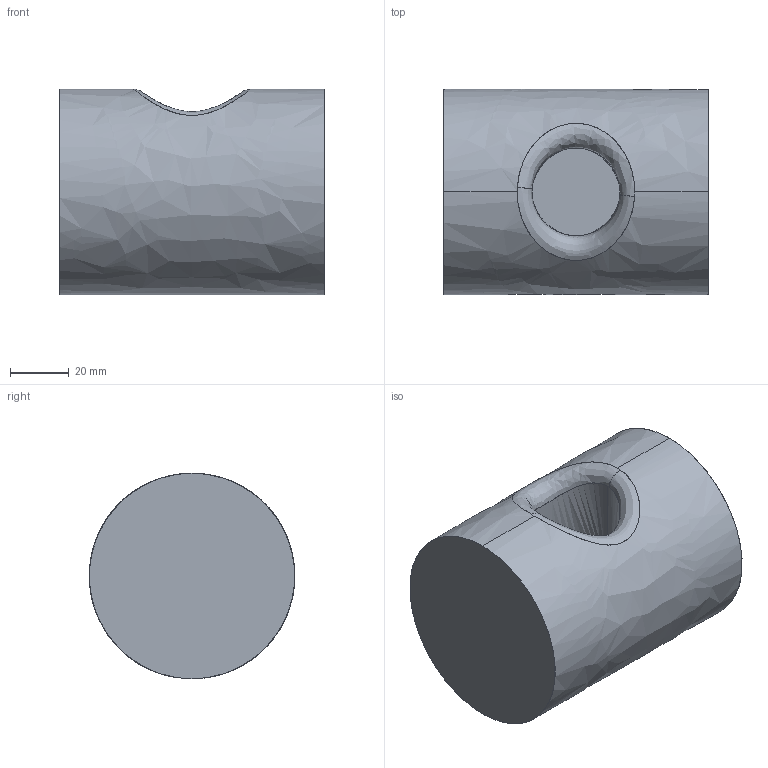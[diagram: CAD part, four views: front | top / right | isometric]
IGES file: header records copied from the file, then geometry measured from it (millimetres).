
Start section: Comment
Global section: file name: WelleEADS.igs; native system:  By Spatial Corp.; preprocessor: XPlus GENERIC/IGES 3.0; author: Author; organization: Title; date: 20070119.114737; units: inch
Bounding box: 90 x 69.98 x 70 mm (x, y, z)
Surface area: 29742.4 mm2 (no closed solid volume)
Topology: 0 solids, 0 shells, 9 faces, 42 edges, 42 vertices
Faces by surface type: bspline 9
